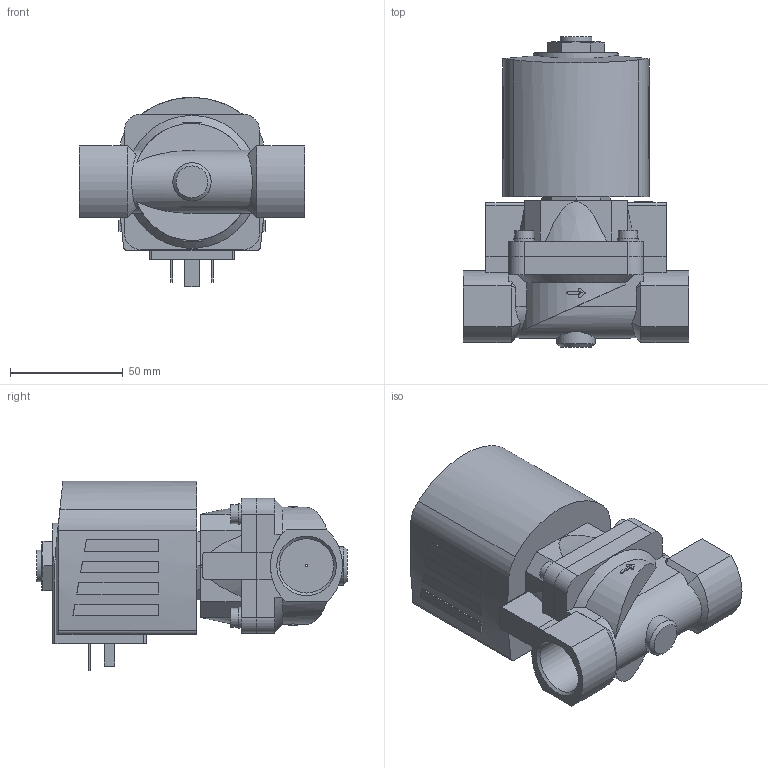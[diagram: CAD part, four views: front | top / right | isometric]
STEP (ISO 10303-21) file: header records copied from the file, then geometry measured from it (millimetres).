
FILE_DESCRIPTION(/* description */ ('STEP AP214'),/* implementation_level */ '2;1');
FILE_NAME(/* name */ '6407-374925-Servo-assisted_2_2_way_piston_valve',/* time_stamp */ '2024-07-02T12:33:00+02:00',/* author */ ('License CC BY-ND 4.0'),/* organization */ ('CADENAS'),/* preprocessor_version */ 'ST-DEVELOPER v19.3',/* originating_system */ 'PARTsolutions',/* authorisation */ ' ');
FILE_SCHEMA (('AUTOMOTIVE_DESIGN {1 0 10303 214 3 1 1}'));
Length unit declared in the file: millimetre
Products named in the file (4): 6407-374925-Servo-assisted 2/2 way piston valve; 5282g-8520MS000-2/2-Wege-Magnetventil_Gehaeuse; 5282d-20MSAU5N-2/2-Wege-Magnetventil_Deckel; AC10ex-65SG=l-Plan-Coil
Assembly tree (3 placements, depth 2):
  6407-374925-Servo-assisted 2/2 way piston valve
    5282g-8520MS000-2/2-Wege-Magnetventil_Gehaeuse
    5282d-20MSAU5N-2/2-Wege-Magnetventil_Deckel
    AC10ex-65SG=l-Plan-Coil
Bounding box: 100 x 137.7 x 84 mm (x, y, z)
Volume: 434814 mm3; surface area: 60194.8 mm2
Topology: 3 solids, 3 shells, 267 faces, 683 edges, 451 vertices
Faces by surface type: plane 178, cylinder 63, cone 26
Full cylindrical faces by diameter (mm): 1 x1, 2.013 x1, 8.5 x4, 9.2 x4, 14 x1, 17 x1, 24.117 x2
Entity records: 8851 total; most frequent: CARTESIAN_POINT 1643, DIRECTION 1322, ORIENTED_EDGE 1320, EDGE_CURVE 660, AXIS2_PLACEMENT_3D 450, VERTEX_POINT 446, LINE 422, VECTOR 422
